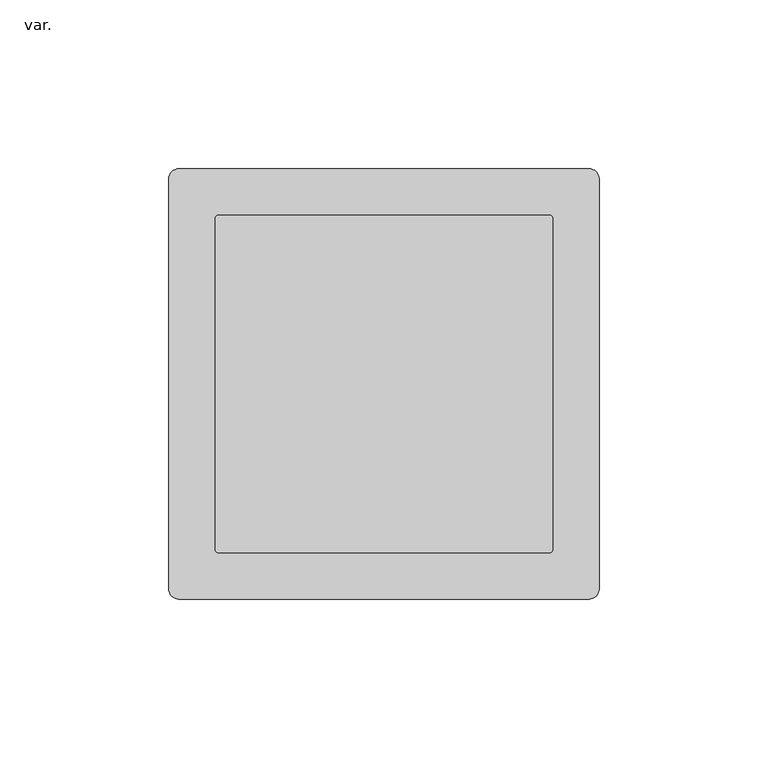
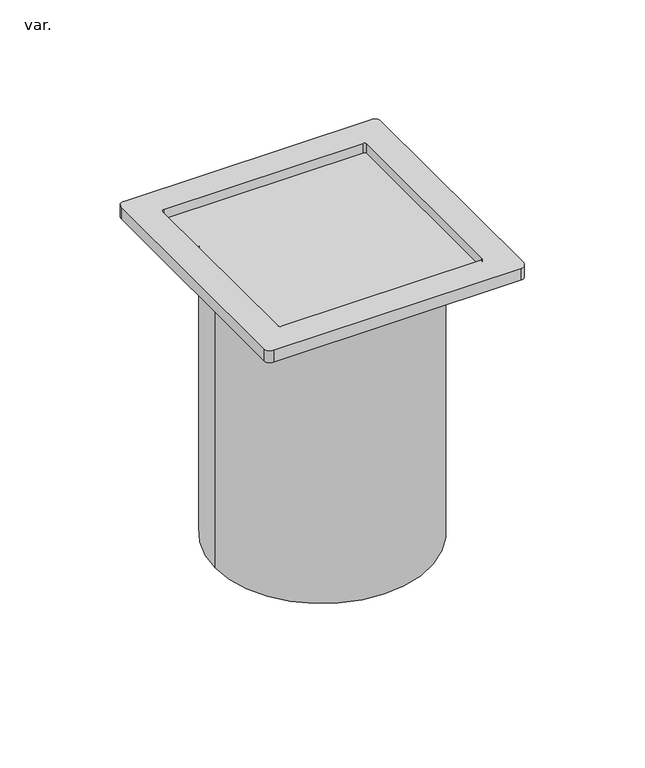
"""IFC4 building model written with IfcOpenShell, lengths in millimetres: pipe fitting geometry, AmancoWavin_Unionesdetubería_SilentiumNoUsarMarcoPortarrejillaparaBocaDeAccesoCocina : var.."""

from ifc_helpers import new_model, si_unit, frame, origin, place, context, project, spatial, polyline, circle_curve, source, transform, mapped, element, save
from ifc_brep_helpers import plane_surface, cylinder_surface, revolved_surface, advanced_brep


def var_ad9b9af4(model_context):
    return source(origin(), model_context, "Body", "AdvancedBrep", [
        advanced_brep(
        [(-8.4953589, 63.75, 6.2), (-129.9953589, 63.75, 6.2), (-132.9953589, 60.75, 6.2), (-132.9953589, -60.75, 6.2), (-129.9953589, -63.75, 6.2), (-8.4953589, -63.75, 6.2), (-5.4953589, -60.75, 6.2), (-5.4953589, 60.75, 6.2), (-119.2453589, 49.0, 6.2), (-118.2453589, 50.0, 6.2), (-20.2453589, 50.0, 6.2), (-19.2453589, 49.0, 6.2), (-19.2453589, -49.0, 6.2), (-20.2453589, -50.0, 6.2), (-118.2453589, -50.0, 6.2), (-119.2453589, -49.0, 6.2), (-8.4953589, 63.75, 0.0), (-5.4953589, 60.75, 0.0), (-5.4953589, -60.75, 0.0), (-8.4953589, -63.75, 0.0), (-129.9953589, -63.75, 0.0), (-132.9953589, -60.75, 0.0), (-132.9953589, 60.75, 0.0), (-129.9953589, 63.75, 0.0), (-118.2453589, 50.0, 1.2), (-119.2453589, 49.0, 1.2), (-119.2453589, -49.0, 1.2), (-118.2453589, -50.0, 1.2), (-20.2453589, -50.0, 1.2), (-19.2453589, -49.0, 1.2), (-19.2453589, 49.0, 1.2), (-20.2453589, 50.0, 1.2)],
        [
            (0, 1),
            (1, 2, circle_curve(frame((-129.9953589, 60.75, 6.2), z_axis=(0.0, 0.0, 1.0), x_axis=(1.0, 0.0, 0.0)), 3.0)),
            (2, 3),
            (3, 4, circle_curve(frame((-129.9953589, -60.75, 6.2), z_axis=(0.0, 0.0, 1.0), x_axis=(1.0, 0.0, 0.0)), 3.0)),
            (4, 5),
            (5, 6, circle_curve(frame((-8.4953589, -60.75, 6.2), z_axis=(0.0, 0.0, 1.0), x_axis=(1.0, 0.0, 0.0)), 3.0)),
            (6, 7),
            (7, 0, circle_curve(frame((-8.4953589, 60.75, 6.2), z_axis=(0.0, 0.0, 1.0), x_axis=(1.0, 0.0, 0.0)), 3.0)),
            (8, 9, circle_curve(frame((-118.2453589, 49.0, 6.2), z_axis=(0.0, 0.0, -1.0), x_axis=(1.0, 0.0, 0.0)), 1.0)),
            (9, 10),
            (10, 11, circle_curve(frame((-20.2453589, 49.0, 6.2), z_axis=(0.0, 0.0, -1.0), x_axis=(1.0, 0.0, 0.0)), 1.0)),
            (11, 12),
            (12, 13, circle_curve(frame((-20.2453589, -49.0, 6.2), z_axis=(0.0, 0.0, -1.0), x_axis=(1.0, 0.0, 0.0)), 1.0)),
            (13, 14),
            (14, 15, circle_curve(frame((-118.2453589, -49.0, 6.2), z_axis=(0.0, 0.0, -1.0), x_axis=(1.0, 0.0, 0.0)), 1.0)),
            (15, 8),
            (16, 17, circle_curve(frame((-8.4953589, 60.75, 0.0), z_axis=(0.0, 0.0, -1.0), x_axis=(1.0, 0.0, 0.0)), 3.0)),
            (17, 18),
            (18, 19, circle_curve(frame((-8.4953589, -60.75, 0.0), z_axis=(0.0, 0.0, -1.0), x_axis=(1.0, 0.0, 0.0)), 3.0)),
            (19, 20),
            (20, 21, circle_curve(frame((-129.9953589, -60.75, 0.0), z_axis=(0.0, 0.0, -1.0), x_axis=(1.0, 0.0, 0.0)), 3.0)),
            (21, 22),
            (22, 23, circle_curve(frame((-129.9953589, 60.75, 0.0), z_axis=(0.0, 0.0, -1.0), x_axis=(1.0, 0.0, 0.0)), 3.0)),
            (23, 16),
            (0, 16),
            (23, 1),
            (22, 2),
            (21, 3),
            (20, 4),
            (19, 5),
            (18, 6),
            (17, 7),
            (24, 25, circle_curve(frame((-118.2453589, 49.0, 1.2), z_axis=(0.0, 0.0, 1.0), x_axis=(1.0, 0.0, 0.0)), 1.0)),
            (25, 26),
            (26, 27, circle_curve(frame((-118.2453589, -49.0, 1.2), z_axis=(0.0, 0.0, 1.0), x_axis=(1.0, 0.0, 0.0)), 1.0)),
            (27, 28),
            (28, 29, circle_curve(frame((-20.2453589, -49.0, 1.2), z_axis=(0.0, 0.0, 1.0), x_axis=(1.0, 0.0, 0.0)), 1.0)),
            (29, 30),
            (30, 31, circle_curve(frame((-20.2453589, 49.0, 1.2), z_axis=(0.0, 0.0, 1.0), x_axis=(1.0, 0.0, 0.0)), 1.0)),
            (31, 24),
            (24, 9),
            (8, 25),
            (15, 26),
            (14, 27),
            (13, 28),
            (12, 29),
            (11, 30),
            (10, 31),
        ],
        [
            plane_surface(frame((-129.9953589, 63.75, 6.2), z_axis=(0.0, 0.0, 1.0), x_axis=(-1.0, 0.0, 0.0))),
            plane_surface(frame((-129.9953589, 63.75, 0.0), z_axis=(0.0, 0.0, -1.0), x_axis=(1.0, 0.0, 0.0))),
            plane_surface(frame((-8.4953589, 63.75, 6.2), z_axis=(0.0, 1.0, 0.0), x_axis=(0.0, 0.0, -1.0))),
            cylinder_surface(frame((-129.9953589, 60.75, 0.0), z_axis=(0.0, 0.0, 1.0), x_axis=(1.0, 0.0, 0.0)), 3.0),
            plane_surface(frame((-132.9953589, 60.75, 6.2), z_axis=(-1.0, 0.0, 0.0), x_axis=(0.0, 0.0, -1.0))),
            cylinder_surface(frame((-129.9953589, -60.75, 0.0), z_axis=(0.0, 0.0, 1.0), x_axis=(1.0, 0.0, 0.0)), 3.0),
            plane_surface(frame((-129.9953589, -63.75, 6.2), z_axis=(0.0, -1.0, 0.0), x_axis=(0.0, 0.0, -1.0))),
            cylinder_surface(frame((-8.4953589, -60.75, 0.0), z_axis=(0.0, 0.0, 1.0), x_axis=(1.0, 0.0, 0.0)), 3.0),
            plane_surface(frame((-5.4953589, -60.75, 6.2), z_axis=(1.0, 0.0, 0.0), x_axis=(0.0, 0.0, -1.0))),
            cylinder_surface(frame((-8.4953589, 60.75, 0.0), z_axis=(0.0, 0.0, 1.0), x_axis=(1.0, 0.0, 0.0)), 3.0),
            plane_surface(frame((-117.2453589, 49.0, 1.2), z_axis=(0.0, 0.0, 1.0), x_axis=(0.0, -1.0, 0.0))),
            revolved_surface(polyline([(-117.2453589, 49.0, 6.2), (-117.2453589, 49.0, 1.2)]), (-118.2453589, 49.0, 1.2), (0.0, 0.0, 1.0)),
            plane_surface(frame((-119.2453589, 49.0, 6.2), z_axis=(1.0, 0.0, 0.0), x_axis=(0.0, 0.0, -1.0))),
            revolved_surface(polyline([(-117.2453589, -49.0, 6.2), (-117.2453589, -49.0, 1.2)]), (-118.2453589, -49.0, 1.2), (0.0, 0.0, 1.0)),
            plane_surface(frame((-118.2453589, -50.0, 6.2), z_axis=(0.0, 1.0, 0.0), x_axis=(0.0, 0.0, -1.0))),
            revolved_surface(polyline([(-19.2453589, -49.0, 6.2), (-19.2453589, -49.0, 1.2)]), (-20.2453589, -49.0, 1.2), (0.0, 0.0, 1.0)),
            plane_surface(frame((-19.2453589, -49.0, 6.2), z_axis=(-1.0, 0.0, 0.0), x_axis=(0.0, 0.0, -1.0))),
            revolved_surface(polyline([(-19.2453589, 49.0, 6.2), (-19.2453589, 49.0, 1.2)]), (-20.2453589, 49.0, 1.2), (0.0, 0.0, 1.0)),
            plane_surface(frame((-20.2453589, 50.0, 6.2), z_axis=(0.0, -1.0, 0.0), x_axis=(0.0, 0.0, -1.0))),
        ],
        [
            (0, [[1, 2, 3, 4, 5, 6, 7, 8], [9, 10, 11, 12, 13, 14, 15, 16]]),
            (1, [[17, 18, 19, 20, 21, 22, 23, 24]]),
            (2, [[-1, 25, -24, 26]]),
            (3, [[-2, -26, -23, 27]]),
            (4, [[-3, -27, -22, 28]]),
            (5, [[-4, -28, -21, 29]]),
            (6, [[-5, -29, -20, 30]]),
            (7, [[-6, -30, -19, 31]]),
            (8, [[-7, -31, -18, 32]]),
            (9, [[-8, -32, -17, -25]]),
            (10, [[33, 34, 35, 36, 37, 38, 39, 40]]),
            (11, [[-33, 41, -9, 42]]),
            (12, [[-34, -42, -16, 43]]),
            (13, [[-35, -43, -15, 44]]),
            (14, [[-36, -44, -14, 45]]),
            (15, [[-37, -45, -13, 46]]),
            (16, [[-38, -46, -12, 47]]),
            (17, [[-39, -47, -11, 48]]),
            (18, [[-40, -48, -10, -41]]),
        ],
    ),
        advanced_brep(
        [(-16.5953589, 0.0, -148.5), (-121.8953589, 0.0, -148.5), (-119.1053589, 0.0, -148.5), (-19.3853589, 0.0, -148.5), (-16.5953589, 0.0, 0.0), (-121.8953589, 0.0, 0.0), (-19.3853589, 0.0, 0.0), (-119.1053589, 0.0, 0.0)],
        [
            (0, 1, circle_curve(frame((-69.2453589, 0.0, -148.5), z_axis=(0.0, 0.0, -1.0), x_axis=(-1.0, 0.0, 0.0)), 52.65)),
            (1, 2),
            (2, 3, circle_curve(frame((-69.2453589, 0.0, -148.5), z_axis=(0.0, 0.0, 1.0), x_axis=(-1.0, 0.0, 0.0)), 49.86)),
            (3, 0),
            (1, 0, circle_curve(frame((-69.2453589, 0.0, -148.5), z_axis=(0.0, 0.0, -1.0), x_axis=(-1.0, 0.0, 0.0)), 52.65)),
            (3, 2, circle_curve(frame((-69.2453589, 0.0, -148.5), z_axis=(0.0, 0.0, 1.0), x_axis=(-1.0, 0.0, 0.0)), 49.86)),
            (4, 5, circle_curve(frame((-69.2453589, 0.0, 0.0), z_axis=(0.0, 0.0, -1.0), x_axis=(-1.0, 0.0, 0.0)), 52.65)),
            (5, 1),
            (0, 4),
            (5, 4, circle_curve(frame((-69.2453589, 0.0, 0.0), z_axis=(0.0, 0.0, -1.0), x_axis=(-1.0, 0.0, 0.0)), 52.65)),
            (6, 7, circle_curve(frame((-69.2453589, 0.0, 0.0), z_axis=(0.0, 0.0, -1.0), x_axis=(-1.0, 0.0, 0.0)), 49.86)),
            (7, 5),
            (4, 6),
            (7, 6, circle_curve(frame((-69.2453589, 0.0, 0.0), z_axis=(0.0, 0.0, -1.0), x_axis=(-1.0, 0.0, 0.0)), 49.86)),
            (2, 7),
            (6, 3),
        ],
        [
            plane_surface(frame((-69.2453589, 0.0, -148.5), z_axis=(0.0, 0.0, -1.0), x_axis=(-1.0, 0.0, 0.0))),
            cylinder_surface(frame((-69.2453589, 0.0, -2321.3150031), z_axis=(0.0, 0.0, 1.0), x_axis=(-1.0, 0.0, 0.0)), 52.65),
            plane_surface(frame((-69.2453589, 0.0, 0.0), z_axis=(0.0, 0.0, 1.0), x_axis=(-1.0, 0.0, 0.0))),
            revolved_surface(polyline([(-119.1053589, 0.0, 0.0), (-119.1053589, 0.0, -148.5)]), (-69.2453589, 0.0, -2321.3150031), (0.0, 0.0, 1.0)),
        ],
        [
            (0, [[1, 2, 3, 4]]),
            (0, [[5, -4, 6, -2]]),
            (1, [[7, 8, -1, 9]]),
            (1, [[10, -9, -5, -8]]),
            (2, [[11, 12, -7, 13]]),
            (2, [[14, -13, -10, -12]]),
            (3, [[-3, 15, -11, 16]]),
            (3, [[-6, -16, -14, -15]]),
        ],
    ),
    ])


if __name__ == "__main__":
    model = new_model("IFC4")
    model_context = context("Model", 3, world=origin())
    ifc_project = project(units=[si_unit("LENGTHUNIT", "METRE", prefix="MILLI")], contexts=[model_context])
    site = spatial("IfcSite", under=ifc_project)
    building = spatial("IfcBuilding", under=site)
    placement = place(None, origin())
    var_shape = var_ad9b9af4(model_context)
    element("IfcPipeFitting", 1, ObjectType="AmancoWavin_Unionesdetubería_SilentiumNoUsarMarcoPortarrejillaparaBocaDeAccesoCocina : var.", at=placement, inside=building, context=model_context, shape_type="MappedRepresentation", body=[
        mapped(var_shape, transform((0.0, 0.0, 0.0), x_axis=(1.0, 0.0, 0.0), y_axis=(0.0, 1.0, 0.0), z_axis=(0.0, 0.0, 1.0))),
    ])
    save(model, "model.ifc")
